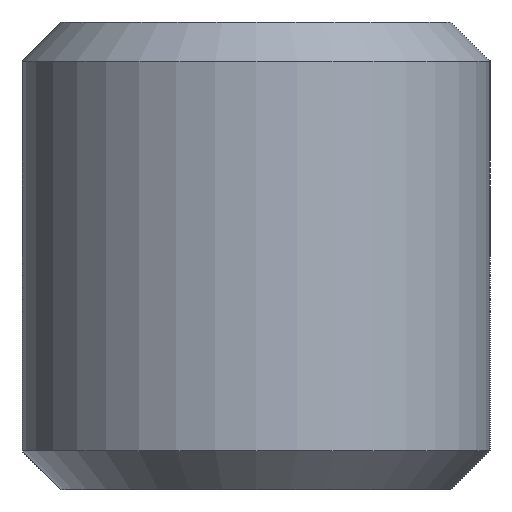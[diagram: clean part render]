
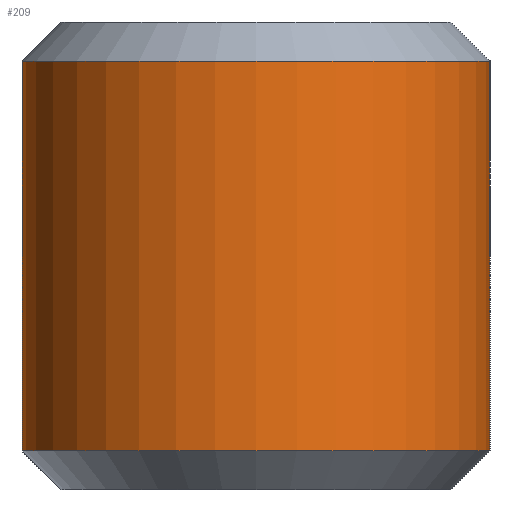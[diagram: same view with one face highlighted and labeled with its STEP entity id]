
A CAD part, left-side view. The second image highlights one B-rep face of the part: STEP entity #209.
In plain terms, the highlighted cylindrical face has radius 1.5 mm (diameter 3 mm), a partial arc.
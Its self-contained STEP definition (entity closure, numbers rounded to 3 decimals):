
#15=CYLINDRICAL_SURFACE('',#250,1.5);
#20=CIRCLE('',#248,1.5);
#21=CIRCLE('',#251,1.5);
#33=FACE_OUTER_BOUND('',#47,.T.);
#47=EDGE_LOOP('',(#157,#158,#159,#160));
#65=LINE('',#357,#85);
#66=LINE('',#360,#86);
#85=VECTOR('',#292,10.);
#86=VECTOR('',#295,10.);
#99=VERTEX_POINT('',#335);
#103=VERTEX_POINT('',#347);
#105=VERTEX_POINT('',#356);
#106=VERTEX_POINT('',#358);
#122=EDGE_CURVE('',#99,#103,#20,.T.);
#125=EDGE_CURVE('',#105,#99,#65,.T.);
#126=EDGE_CURVE('',#106,#105,#21,.T.);
#127=EDGE_CURVE('',#103,#106,#66,.T.);
#157=ORIENTED_EDGE('',*,*,#122,.F.);
#158=ORIENTED_EDGE('',*,*,#125,.F.);
#159=ORIENTED_EDGE('',*,*,#126,.F.);
#160=ORIENTED_EDGE('',*,*,#127,.F.);
#209=ADVANCED_FACE('',(#33),#15,.T.);
#248=AXIS2_PLACEMENT_3D('',#351,#284,#285);
#250=AXIS2_PLACEMENT_3D('',#355,#290,#291);
#251=AXIS2_PLACEMENT_3D('',#359,#293,#294);
#284=DIRECTION('center_axis',(0.,0.,-1.));
#285=DIRECTION('ref_axis',(0.,-1.,0.));
#290=DIRECTION('center_axis',(0.,0.,-1.));
#291=DIRECTION('ref_axis',(0.,-1.,0.));
#292=DIRECTION('',(0.,0.,-1.));
#293=DIRECTION('center_axis',(0.,0.,1.));
#294=DIRECTION('ref_axis',(0.,-1.,0.));
#295=DIRECTION('',(0.,0.,1.));
#335=CARTESIAN_POINT('',(1.5,-1.5,-1.55));
#347=CARTESIAN_POINT('',(1.5,1.5,-1.55));
#351=CARTESIAN_POINT('Origin',(1.5,0.,-1.55));
#355=CARTESIAN_POINT('Origin',(1.5,0.,0.));
#356=CARTESIAN_POINT('',(1.5,-1.5,0.95));
#357=CARTESIAN_POINT('',(1.5,-1.5,0.));
#358=CARTESIAN_POINT('',(1.5,1.5,0.95));
#359=CARTESIAN_POINT('Origin',(1.5,0.,0.95));
#360=CARTESIAN_POINT('',(1.5,1.5,0.));
